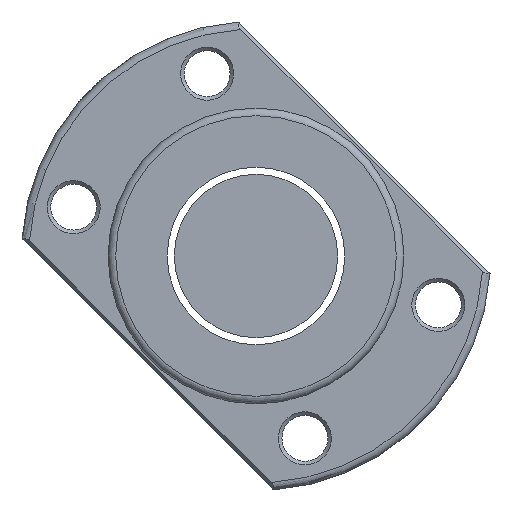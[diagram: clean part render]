
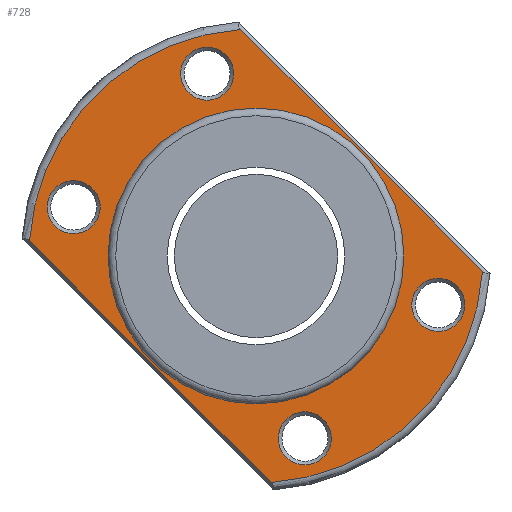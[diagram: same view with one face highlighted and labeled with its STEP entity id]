
A CAD part, left-side view. The second image highlights one B-rep face of the part: STEP entity #728.
In plain terms, the highlighted planar face has unit normal (-1, 0, 0).
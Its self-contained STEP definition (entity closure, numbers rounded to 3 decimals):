
#51 = FACE_BOUND ( 'NONE', #2502, .T. ) ;
#84 = FACE_BOUND ( 'NONE', #1664, .T. ) ;
#93 = EDGE_CURVE ( 'NONE', #825, #825, #1634, .T. ) ;
#118 = AXIS2_PLACEMENT_3D ( 'NONE', #593, #1527, #2082 ) ;
#152 = ORIENTED_EDGE ( 'NONE', *, *, #2902, .T. ) ;
#153 = CARTESIAN_POINT ( 'NONE',  ( -54., 0., -29. ) ) ;
#263 = FACE_OUTER_BOUND ( 'NONE', #1495, .T. ) ;
#269 = ORIENTED_EDGE ( 'NONE', *, *, #1422, .T. ) ;
#285 = VERTEX_POINT ( 'NONE', #2509 ) ;
#294 = FACE_BOUND ( 'NONE', #1384, .T. ) ;
#312 = AXIS2_PLACEMENT_3D ( 'NONE', #1252, #2895, #1497 ) ;
#327 = CARTESIAN_POINT ( 'NONE',  ( -54., 46., 0. ) ) ;
#385 = VERTEX_POINT ( 'NONE', #2783 ) ;
#397 = CARTESIAN_POINT ( 'NONE',  ( -54., 2.965, 44.401 ) ) ;
#465 = ORIENTED_EDGE ( 'NONE', *, *, #93, .T. ) ;
#571 = VERTEX_POINT ( 'NONE', #1125 ) ;
#593 = CARTESIAN_POINT ( 'NONE',  ( -54., 35.739, 9.576 ) ) ;
#602 = VECTOR ( 'NONE', #2565, 1000. ) ;
#624 = DIRECTION ( 'NONE',  ( 0., 0., 1. ) ) ;
#654 = AXIS2_PLACEMENT_3D ( 'NONE', #2480, #1802, #2744 ) ;
#706 = DIRECTION ( 'NONE',  ( 1., 0., 0. ) ) ;
#728 = ADVANCED_FACE ( 'NONE', ( #1702, #294, #84, #51, #986, #263 ), #2412, .T. ) ;
#771 = DIRECTION ( 'NONE',  ( -1., 0., 0. ) ) ;
#825 = VERTEX_POINT ( 'NONE', #1355 ) ;
#849 = CARTESIAN_POINT ( 'NONE',  ( -54., 0., 0. ) ) ;
#873 = VERTEX_POINT ( 'NONE', #2305 ) ;
#907 = ORIENTED_EDGE ( 'NONE', *, *, #1965, .T. ) ;
#938 = LINE ( 'NONE', #2556, #2881 ) ;
#970 = DIRECTION ( 'NONE',  ( 1., 0., 0. ) ) ;
#986 = FACE_BOUND ( 'NONE', #2362, .T. ) ;
#1000 = DIRECTION ( 'NONE',  ( 0., 0., 1. ) ) ;
#1042 = CIRCLE ( 'NONE', #2910, 44.5 ) ;
#1056 = VERTEX_POINT ( 'NONE', #397 ) ;
#1070 = ORIENTED_EDGE ( 'NONE', *, *, #1553, .T. ) ;
#1121 = VERTEX_POINT ( 'NONE', #1579 ) ;
#1125 = CARTESIAN_POINT ( 'NONE',  ( -54., 44.401, 2.965 ) ) ;
#1165 = ORIENTED_EDGE ( 'NONE', *, *, #2221, .T. ) ;
#1189 = CIRCLE ( 'NONE', #654, 29. ) ;
#1252 = CARTESIAN_POINT ( 'NONE',  ( -54., -35.739, -9.576 ) ) ;
#1261 = CIRCLE ( 'NONE', #2826, 5.2 ) ;
#1274 = ORIENTED_EDGE ( 'NONE', *, *, #1995, .T. ) ;
#1282 = CARTESIAN_POINT ( 'NONE',  ( -54., 0., 0. ) ) ;
#1288 = AXIS2_PLACEMENT_3D ( 'NONE', #2099, #706, #1637 ) ;
#1320 = EDGE_LOOP ( 'NONE', ( #1165 ) ) ;
#1355 = CARTESIAN_POINT ( 'NONE',  ( -54., -35.739, -4.376 ) ) ;
#1370 = VERTEX_POINT ( 'NONE', #153 ) ;
#1384 = EDGE_LOOP ( 'NONE', ( #269 ) ) ;
#1392 = CIRCLE ( 'NONE', #3008, 44.5 ) ;
#1407 = EDGE_CURVE ( 'NONE', #285, #1056, #2805, .T. ) ;
#1422 = EDGE_CURVE ( 'NONE', #1121, #1121, #2463, .T. ) ;
#1495 = EDGE_LOOP ( 'NONE', ( #2348, #1274, #152, #1070 ) ) ;
#1497 = DIRECTION ( 'NONE',  ( 0., 0., 1. ) ) ;
#1527 = DIRECTION ( 'NONE',  ( 1., 0., 0. ) ) ;
#1553 = EDGE_CURVE ( 'NONE', #2304, #285, #1392, .T. ) ;
#1579 = CARTESIAN_POINT ( 'NONE',  ( -54., -9.576, -30.539 ) ) ;
#1621 = CARTESIAN_POINT ( 'NONE',  ( -54., 2.282, 43.718 ) ) ;
#1634 = CIRCLE ( 'NONE', #312, 5.2 ) ;
#1637 = DIRECTION ( 'NONE',  ( 0., 0., 1. ) ) ;
#1664 = EDGE_LOOP ( 'NONE', ( #465 ) ) ;
#1702 = FACE_BOUND ( 'NONE', #1320, .T. ) ;
#1729 = AXIS2_PLACEMENT_3D ( 'NONE', #327, #771, #1000 ) ;
#1742 = DIRECTION ( 'NONE',  ( 0., 0., 1. ) ) ;
#1773 = DIRECTION ( 'NONE',  ( -1., 0., 0. ) ) ;
#1802 = DIRECTION ( 'NONE',  ( 1., 0., 0. ) ) ;
#1888 = DIRECTION ( 'NONE',  ( 0., 0., 1. ) ) ;
#1965 = EDGE_CURVE ( 'NONE', #1370, #1370, #1189, .T. ) ;
#1995 = EDGE_CURVE ( 'NONE', #1056, #571, #1042, .T. ) ;
#2082 = DIRECTION ( 'NONE',  ( 0., 0., 1. ) ) ;
#2099 = CARTESIAN_POINT ( 'NONE',  ( -54., -9.576, -35.739 ) ) ;
#2221 = EDGE_CURVE ( 'NONE', #873, #873, #2667, .T. ) ;
#2304 = VERTEX_POINT ( 'NONE', #2848 ) ;
#2305 = CARTESIAN_POINT ( 'NONE',  ( -54., 35.739, 14.776 ) ) ;
#2336 = CARTESIAN_POINT ( 'NONE',  ( -54., 9.576, 35.739 ) ) ;
#2348 = ORIENTED_EDGE ( 'NONE', *, *, #1407, .T. ) ;
#2362 = EDGE_LOOP ( 'NONE', ( #907 ) ) ;
#2364 = DIRECTION ( 'NONE',  ( 0., -0.707, -0.707 ) ) ;
#2387 = ORIENTED_EDGE ( 'NONE', *, *, #2923, .T. ) ;
#2405 = DIRECTION ( 'NONE',  ( -1., 0., 0. ) ) ;
#2412 = PLANE ( 'NONE',  #1729 ) ;
#2463 = CIRCLE ( 'NONE', #1288, 5.2 ) ;
#2480 = CARTESIAN_POINT ( 'NONE',  ( -54., 0., 0. ) ) ;
#2502 = EDGE_LOOP ( 'NONE', ( #2387 ) ) ;
#2509 = CARTESIAN_POINT ( 'NONE',  ( -54., -44.401, -2.965 ) ) ;
#2556 = CARTESIAN_POINT ( 'NONE',  ( -54., 43.718, 2.282 ) ) ;
#2565 = DIRECTION ( 'NONE',  ( 0., 0.707, 0.707 ) ) ;
#2667 = CIRCLE ( 'NONE', #118, 5.2 ) ;
#2744 = DIRECTION ( 'NONE',  ( 0., 0., -1. ) ) ;
#2783 = CARTESIAN_POINT ( 'NONE',  ( -54., 9.576, 40.939 ) ) ;
#2805 = LINE ( 'NONE', #1621, #602 ) ;
#2826 = AXIS2_PLACEMENT_3D ( 'NONE', #2336, #970, #1888 ) ;
#2848 = CARTESIAN_POINT ( 'NONE',  ( -54., -2.965, -44.401 ) ) ;
#2881 = VECTOR ( 'NONE', #2364, 1000. ) ;
#2895 = DIRECTION ( 'NONE',  ( 1., 0., 0. ) ) ;
#2902 = EDGE_CURVE ( 'NONE', #571, #2304, #938, .T. ) ;
#2910 = AXIS2_PLACEMENT_3D ( 'NONE', #849, #1773, #624 ) ;
#2923 = EDGE_CURVE ( 'NONE', #385, #385, #1261, .T. ) ;
#3008 = AXIS2_PLACEMENT_3D ( 'NONE', #1282, #2405, #1742 ) ;
